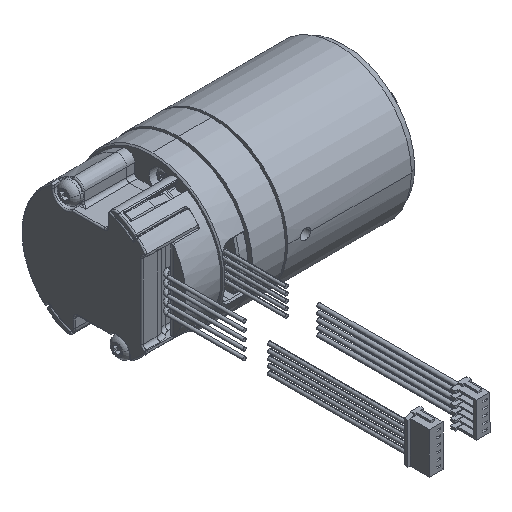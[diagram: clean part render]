
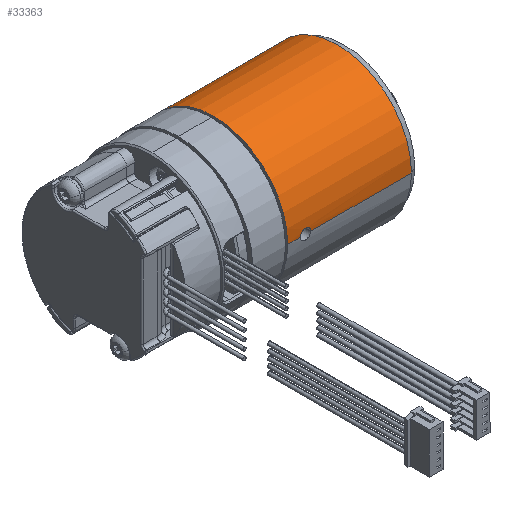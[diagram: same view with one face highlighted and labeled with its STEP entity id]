
A CAD part, isometric view. The second image highlights one B-rep face of the part: STEP entity #33363.
In plain terms, the highlighted cylindrical face has radius 11.5 mm (diameter 23 mm), a partial arc.
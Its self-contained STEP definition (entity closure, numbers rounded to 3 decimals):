
#343 = CARTESIAN_POINT ( 'NONE',  ( -9.659, 11.474, 0.779 ) ) ;
#490 = CARTESIAN_POINT ( 'NONE',  ( -10.25, 11.5, 0. ) ) ;
#632 = CARTESIAN_POINT ( 'NONE',  ( -10.25, 11.5, 0.211 ) ) ;
#959 = CIRCLE ( 'NONE', #23750, 11.5 ) ;
#1592 = B_SPLINE_CURVE_WITH_KNOTS ( 'NONE', 3,
 ( #19699, #29704, #9532, #6317, #23208, #13531, #6590, #10267, #33500, #37506, #10403, #33650, #27059, #6892, #27342, #30413 ),
 .UNSPECIFIED., .F., .F.,
 ( 4, 2, 2, 2, 2, 2, 2, 4 ),
 ( 0., 0., 0.001, 0.001, 0.002, 0.002, 0.002, 0.003 ),
 .UNSPECIFIED. ) ;
#1722 = AXIS2_PLACEMENT_3D ( 'NONE', #37370, #2470, #23053 ) ;
#1936 = ORIENTED_EDGE ( 'NONE', *, *, #26919, .T. ) ;
#2470 = DIRECTION ( 'NONE',  ( 1., 0., 0. ) ) ;
#2579 = CARTESIAN_POINT ( 'NONE',  ( 9.868, -11.5, 0. ) ) ;
#4019 = CARTESIAN_POINT ( 'NONE',  ( -8.65, 11.5, 0.209 ) ) ;
#5242 = DIRECTION ( 'NONE',  ( -1., 0., 0. ) ) ;
#5995 = CIRCLE ( 'NONE', #38502, 11.5 ) ;
#6317 = CARTESIAN_POINT ( 'NONE',  ( -10.149, -11.493, 0.403 ) ) ;
#6582 = VECTOR ( 'NONE', #13093, 1000. ) ;
#6590 = CARTESIAN_POINT ( 'NONE',  ( -9.659, -11.472, 0.8 ) ) ;
#6832 = CARTESIAN_POINT ( 'NONE',  ( -8.958, 11.482, 0.639 ) ) ;
#6892 = CARTESIAN_POINT ( 'NONE',  ( -8.671, -11.499, 0.209 ) ) ;
#8296 = CARTESIAN_POINT ( 'NONE',  ( -12.2, 11.5, 0. ) ) ;
#8307 = CARTESIAN_POINT ( 'NONE',  ( -8.65, 11.5, 0. ) ) ;
#8568 = LINE ( 'NONE', #2579, #20639 ) ;
#8821 = VERTEX_POINT ( 'NONE', #12645 ) ;
#8836 = EDGE_LOOP ( 'NONE', ( #26590, #40257, #1936, #9818, #14145, #17766, #23995, #17808 ) ) ;
#9532 = CARTESIAN_POINT ( 'NONE',  ( -10.229, -11.498, 0.21 ) ) ;
#9540 = CARTESIAN_POINT ( 'NONE',  ( 9.868, 11.5, 0. ) ) ;
#9818 = ORIENTED_EDGE ( 'NONE', *, *, #20209, .T. ) ;
#10017 = VERTEX_POINT ( 'NONE', #29449 ) ;
#10059 = CARTESIAN_POINT ( 'NONE',  ( -8.737, 11.493, 0.418 ) ) ;
#10169 = EDGE_CURVE ( 'NONE', #26390, #20736, #959, .T. ) ;
#10267 = CARTESIAN_POINT ( 'NONE',  ( -9.346, -11.472, 0.8 ) ) ;
#10403 = CARTESIAN_POINT ( 'NONE',  ( -8.959, -11.482, 0.64 ) ) ;
#12645 = CARTESIAN_POINT ( 'NONE',  ( -12.2, -11.5, 0. ) ) ;
#12714 = VECTOR ( 'NONE', #34359, 1000. ) ;
#13093 = DIRECTION ( 'NONE',  ( 1., 0., 0. ) ) ;
#13531 = CARTESIAN_POINT ( 'NONE',  ( -9.868, -11.479, 0.713 ) ) ;
#13628 = CARTESIAN_POINT ( 'NONE',  ( -9.046, 11.479, 0.699 ) ) ;
#14145 = ORIENTED_EDGE ( 'NONE', *, *, #10169, .F. ) ;
#14479 = EDGE_CURVE ( 'NONE', #39853, #40497, #22221, .T. ) ;
#15557 = LINE ( 'NONE', #9540, #6582 ) ;
#15565 = CARTESIAN_POINT ( 'NONE',  ( -12.2, 0., 0. ) ) ;
#17461 = CARTESIAN_POINT ( 'NONE',  ( -9.344, 11.472, 0.8 ) ) ;
#17766 = ORIENTED_EDGE ( 'NONE', *, *, #24919, .F. ) ;
#17808 = ORIENTED_EDGE ( 'NONE', *, *, #21223, .F. ) ;
#19699 = CARTESIAN_POINT ( 'NONE',  ( -10.25, -11.5, 0. ) ) ;
#20209 = EDGE_CURVE ( 'NONE', #31695, #20736, #8568, .T. ) ;
#20448 = DIRECTION ( 'NONE',  ( 1., 0., 0. ) ) ;
#20639 = VECTOR ( 'NONE', #26110, 1000. ) ;
#20736 = VERTEX_POINT ( 'NONE', #43524 ) ;
#21223 = EDGE_CURVE ( 'NONE', #38528, #40497, #32156, .T. ) ;
#22221 = B_SPLINE_CURVE_WITH_KNOTS ( 'NONE', 3,
 ( #24033, #4019, #10059, #6832, #13628, #40584, #17461, #33595, #343, #27423, #37449, #30651, #632, #490 ),
 .UNSPECIFIED., .F., .F.,
 ( 4, 2, 2, 2, 2, 2, 4 ),
 ( 0.003, 0.003, 0.003, 0.004, 0.004, 0.004, 0.005 ),
 .UNSPECIFIED. ) ;
#22588 = DIRECTION ( 'NONE',  ( 0., -1., 0. ) ) ;
#22677 = CARTESIAN_POINT ( 'NONE',  ( -8.65, -11.5, 0. ) ) ;
#23053 = DIRECTION ( 'NONE',  ( 0., 1., 0. ) ) ;
#23208 = CARTESIAN_POINT ( 'NONE',  ( -10.089, -11.49, 0.492 ) ) ;
#23750 = AXIS2_PLACEMENT_3D ( 'NONE', #37387, #20448, #33519 ) ;
#23995 = ORIENTED_EDGE ( 'NONE', *, *, #14479, .T. ) ;
#24033 = CARTESIAN_POINT ( 'NONE',  ( -8.65, 11.5, 0. ) ) ;
#24919 = EDGE_CURVE ( 'NONE', #39853, #26390, #15557, .T. ) ;
#26068 = CARTESIAN_POINT ( 'NONE',  ( 7., 11.5, 0. ) ) ;
#26110 = DIRECTION ( 'NONE',  ( 1., 0., 0. ) ) ;
#26390 = VERTEX_POINT ( 'NONE', #26068 ) ;
#26590 = ORIENTED_EDGE ( 'NONE', *, *, #43032, .F. ) ;
#26919 = EDGE_CURVE ( 'NONE', #10017, #31695, #1592, .T. ) ;
#26977 = FACE_OUTER_BOUND ( 'NONE', #8836, .T. ) ;
#27059 = CARTESIAN_POINT ( 'NONE',  ( -8.751, -11.493, 0.403 ) ) ;
#27342 = CARTESIAN_POINT ( 'NONE',  ( -8.65, -11.5, 0.104 ) ) ;
#27423 = CARTESIAN_POINT ( 'NONE',  ( -9.853, 11.479, 0.699 ) ) ;
#27880 = CARTESIAN_POINT ( 'NONE',  ( 9.868, -11.5, 0. ) ) ;
#29449 = CARTESIAN_POINT ( 'NONE',  ( -10.25, -11.5, 0. ) ) ;
#29704 = CARTESIAN_POINT ( 'NONE',  ( -10.25, -11.5, 0.106 ) ) ;
#30413 = CARTESIAN_POINT ( 'NONE',  ( -8.65, -11.5, 0. ) ) ;
#30651 = CARTESIAN_POINT ( 'NONE',  ( -10.163, 11.493, 0.419 ) ) ;
#31130 = CARTESIAN_POINT ( 'NONE',  ( 9.868, 11.5, 0. ) ) ;
#31695 = VERTEX_POINT ( 'NONE', #22677 ) ;
#32156 = LINE ( 'NONE', #31130, #12714 ) ;
#33363 = ADVANCED_FACE ( 'NONE', ( #26977 ), #35926, .T. ) ;
#33500 = CARTESIAN_POINT ( 'NONE',  ( -9.241, -11.474, 0.779 ) ) ;
#33519 = DIRECTION ( 'NONE',  ( 0., 1., 0. ) ) ;
#33595 = CARTESIAN_POINT ( 'NONE',  ( -9.555, 11.472, 0.8 ) ) ;
#33650 = CARTESIAN_POINT ( 'NONE',  ( -8.81, -11.49, 0.491 ) ) ;
#34244 = LINE ( 'NONE', #27880, #38933 ) ;
#34359 = DIRECTION ( 'NONE',  ( 1., 0., 0. ) ) ;
#35926 = CYLINDRICAL_SURFACE ( 'NONE', #1722, 11.5 ) ;
#37370 = CARTESIAN_POINT ( 'NONE',  ( 9.868, 0., 0. ) ) ;
#37387 = CARTESIAN_POINT ( 'NONE',  ( 7., 0., 0. ) ) ;
#37449 = CARTESIAN_POINT ( 'NONE',  ( -9.941, 11.482, 0.64 ) ) ;
#37506 = CARTESIAN_POINT ( 'NONE',  ( -9.047, -11.479, 0.699 ) ) ;
#37513 = EDGE_CURVE ( 'NONE', #8821, #10017, #34244, .T. ) ;
#38502 = AXIS2_PLACEMENT_3D ( 'NONE', #15565, #5242, #22588 ) ;
#38528 = VERTEX_POINT ( 'NONE', #8296 ) ;
#38933 = VECTOR ( 'NONE', #41016, 1000. ) ;
#39853 = VERTEX_POINT ( 'NONE', #8307 ) ;
#40257 = ORIENTED_EDGE ( 'NONE', *, *, #37513, .T. ) ;
#40497 = VERTEX_POINT ( 'NONE', #42755 ) ;
#40584 = CARTESIAN_POINT ( 'NONE',  ( -9.24, 11.474, 0.779 ) ) ;
#41016 = DIRECTION ( 'NONE',  ( 1., 0., 0. ) ) ;
#42755 = CARTESIAN_POINT ( 'NONE',  ( -10.25, 11.5, 0. ) ) ;
#43032 = EDGE_CURVE ( 'NONE', #8821, #38528, #5995, .T. ) ;
#43524 = CARTESIAN_POINT ( 'NONE',  ( 7., -11.5, 0. ) ) ;
